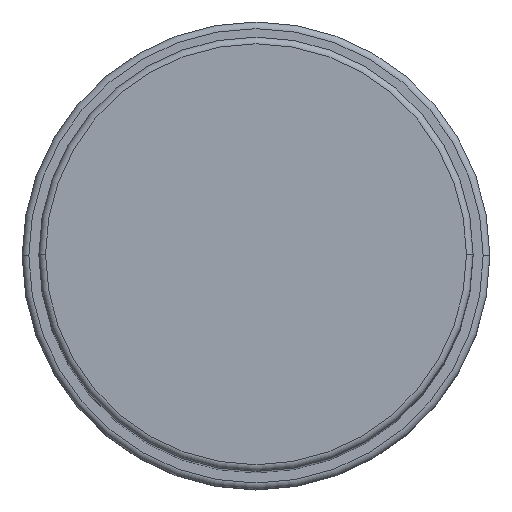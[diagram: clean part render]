
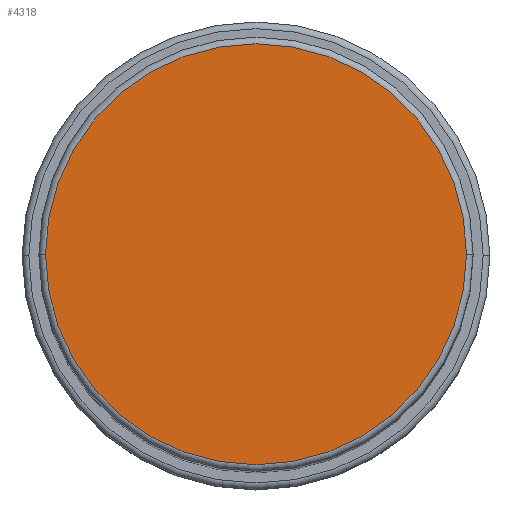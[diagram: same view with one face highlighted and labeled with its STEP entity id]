
A CAD part, top view. The second image highlights one B-rep face of the part: STEP entity #4318.
In plain terms, the highlighted planar face has unit normal (0, 0, 1).
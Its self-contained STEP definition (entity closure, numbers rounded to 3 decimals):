
#81 = CARTESIAN_POINT ( 'NONE',  ( 31.5, 0., 148. ) ) ;
#99 = EDGE_LOOP ( 'NONE', ( #2210, #689 ) ) ;
#196 = EDGE_CURVE ( 'NONE', #1542, #5095, #4652, .T. ) ;
#517 = DIRECTION ( 'NONE',  ( 0., 0., 1. ) ) ;
#558 = CARTESIAN_POINT ( 'NONE',  ( 0., 0., 148. ) ) ;
#689 = ORIENTED_EDGE ( 'NONE', *, *, #196, .T. ) ;
#881 = CARTESIAN_POINT ( 'NONE',  ( 0., 0., 148. ) ) ;
#1270 = AXIS2_PLACEMENT_3D ( 'NONE', #881, #517, #4646 ) ;
#1381 = EDGE_CURVE ( 'NONE', #5095, #1542, #1976, .T. ) ;
#1411 = PLANE ( 'NONE',  #3803 ) ;
#1542 = VERTEX_POINT ( 'NONE', #2258 ) ;
#1566 = FACE_OUTER_BOUND ( 'NONE', #99, .T. ) ;
#1874 = DIRECTION ( 'NONE',  ( 0., 0., 1. ) ) ;
#1976 = CIRCLE ( 'NONE', #1270, 31.5 ) ;
#2127 = DIRECTION ( 'NONE',  ( 1., 0., 0. ) ) ;
#2210 = ORIENTED_EDGE ( 'NONE', *, *, #1381, .T. ) ;
#2258 = CARTESIAN_POINT ( 'NONE',  ( -31.5, 0., 148. ) ) ;
#2524 = AXIS2_PLACEMENT_3D ( 'NONE', #2983, #1874, #2127 ) ;
#2611 = DIRECTION ( 'NONE',  ( 0., 0., 1. ) ) ;
#2983 = CARTESIAN_POINT ( 'NONE',  ( 0., 0., 148. ) ) ;
#3803 = AXIS2_PLACEMENT_3D ( 'NONE', #558, #2611, #5134 ) ;
#4318 = ADVANCED_FACE ( 'NONE', ( #1566 ), #1411, .T. ) ;
#4646 = DIRECTION ( 'NONE',  ( 1., 0., 0. ) ) ;
#4652 = CIRCLE ( 'NONE', #2524, 31.5 ) ;
#5095 = VERTEX_POINT ( 'NONE', #81 ) ;
#5134 = DIRECTION ( 'NONE',  ( 1., 0., 0. ) ) ;
